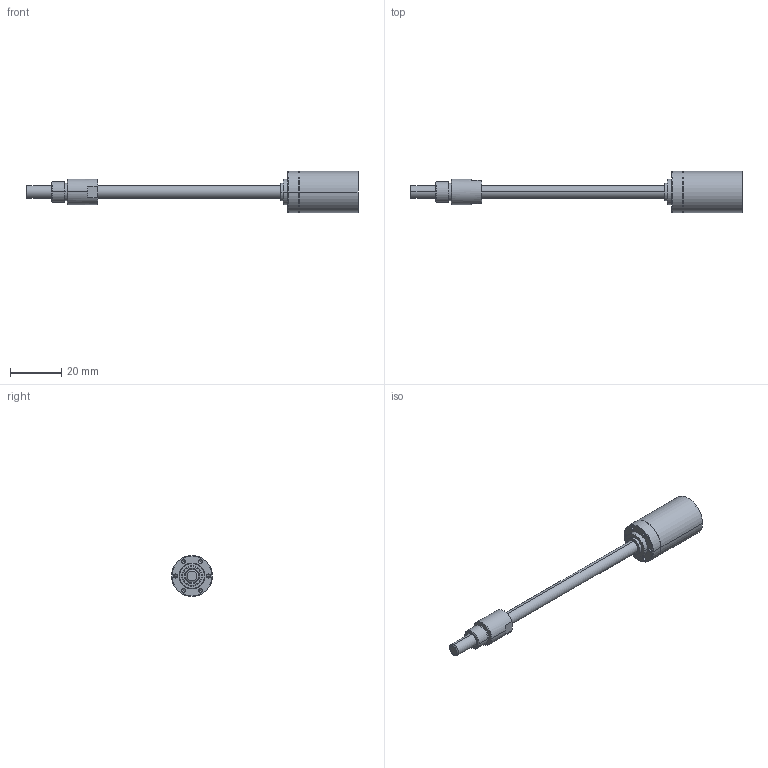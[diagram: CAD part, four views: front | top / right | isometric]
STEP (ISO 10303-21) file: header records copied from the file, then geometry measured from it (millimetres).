
FILE_DESCRIPTION((''),'2;1');
FILE_NAME('424223_GP16S_KG-2ST','2016-10-05T',('mmagpetk'),(''),'CREO PARAMETRIC BY PTC INC, 2016050','CREO PARAMETRIC BY PTC INC, 2016050','');
FILE_SCHEMA(('CONFIG_CONTROL_DESIGN'));
Length unit declared in the file: millimetre
Products named in the file (1): 424223_GP16S_KG-2ST
Bounding box: 129.4 x 16 x 16 mm (x, y, z)
Volume: 8085.1 mm3; surface area: 4416.4 mm2
Topology: 1 solids, 1 shells, 106 faces, 234 edges, 140 vertices
Faces by surface type: cylinder 46, cone 36, plane 22, torus 2
Entity records: 4920 total; most frequent: CARTESIAN_POINT 584, DIRECTION 552, ORIENTED_EDGE 444, PRESENTATION_STYLE_ASSIGNMENT 321, AXIS2_PLACEMENT_3D 232, STYLED_ITEM 223, CURVE_STYLE 222, EDGE_CURVE 222
